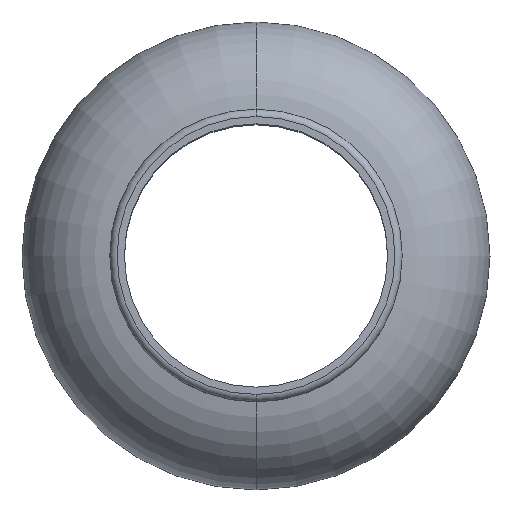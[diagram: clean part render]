
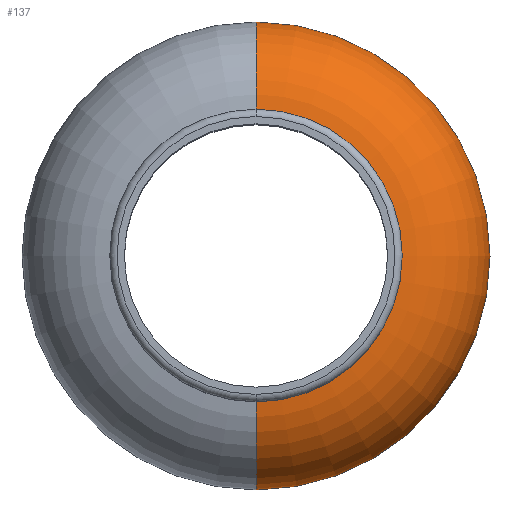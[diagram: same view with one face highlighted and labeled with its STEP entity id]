
A CAD part, top view. The second image highlights one B-rep face of the part: STEP entity #137.
In plain terms, the highlighted toroidal (fillet/blend) face has major radius 9.5 mm and minor radius 6.5 mm.
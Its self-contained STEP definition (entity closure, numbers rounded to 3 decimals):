
#10 = DIRECTION ( 'NONE',  ( 1., 0., 0. ) ) ;
#107 = EDGE_CURVE ( 'NONE', #642, #276, #760, .T. ) ;
#118 = DIRECTION ( 'NONE',  ( 0., 1., 0. ) ) ;
#121 = EDGE_LOOP ( 'NONE', ( #822, #323, #725, #377 ) ) ;
#137 = ADVANCED_FACE ( 'NONE', ( #696 ), #272, .T. ) ;
#166 = CARTESIAN_POINT ( 'NONE',  ( 0., 9.964, -6.483 ) ) ;
#178 = DIRECTION ( 'NONE',  ( 0., 0., 1. ) ) ;
#186 = VERTEX_POINT ( 'NONE', #401 ) ;
#201 = CARTESIAN_POINT ( 'NONE',  ( 0., 0., 0. ) ) ;
#206 = AXIS2_PLACEMENT_3D ( 'NONE', #436, #178, #569 ) ;
#226 = AXIS2_PLACEMENT_3D ( 'NONE', #753, #10, #410 ) ;
#227 = AXIS2_PLACEMENT_3D ( 'NONE', #433, #842, #118 ) ;
#272 = TOROIDAL_SURFACE ( 'NONE', #601, 9.5, 6.5 ) ;
#276 = VERTEX_POINT ( 'NONE', #166 ) ;
#323 = ORIENTED_EDGE ( 'NONE', *, *, #789, .T. ) ;
#329 = EDGE_CURVE ( 'NONE', #694, #276, #552, .T. ) ;
#377 = ORIENTED_EDGE ( 'NONE', *, *, #107, .F. ) ;
#398 = EDGE_CURVE ( 'NONE', #642, #186, #837, .T. ) ;
#401 = CARTESIAN_POINT ( 'NONE',  ( 0., -9.964, 6.483 ) ) ;
#410 = DIRECTION ( 'NONE',  ( 0., 1., 0. ) ) ;
#433 = CARTESIAN_POINT ( 'NONE',  ( 0., 0., 6.483 ) ) ;
#436 = CARTESIAN_POINT ( 'NONE',  ( 0., 0., -6.483 ) ) ;
#460 = DIRECTION ( 'NONE',  ( -1., 0., 0. ) ) ;
#476 = CARTESIAN_POINT ( 'NONE',  ( 0., 9.964, 6.483 ) ) ;
#488 = DIRECTION ( 'NONE',  ( 0., 0., -1. ) ) ;
#552 = CIRCLE ( 'NONE', #206, 9.964 ) ;
#569 = DIRECTION ( 'NONE',  ( 0., -1., 0. ) ) ;
#600 = CARTESIAN_POINT ( 'NONE',  ( 0., 9.5, 0. ) ) ;
#601 = AXIS2_PLACEMENT_3D ( 'NONE', #201, #488, #807 ) ;
#607 = CARTESIAN_POINT ( 'NONE',  ( 0., -9.964, -6.483 ) ) ;
#642 = VERTEX_POINT ( 'NONE', #476 ) ;
#688 = DIRECTION ( 'NONE',  ( 0., 0., 1. ) ) ;
#694 = VERTEX_POINT ( 'NONE', #607 ) ;
#696 = FACE_OUTER_BOUND ( 'NONE', #121, .T. ) ;
#725 = ORIENTED_EDGE ( 'NONE', *, *, #329, .T. ) ;
#753 = CARTESIAN_POINT ( 'NONE',  ( 0., -9.5, 0. ) ) ;
#760 = CIRCLE ( 'NONE', #847, 6.5 ) ;
#789 = EDGE_CURVE ( 'NONE', #186, #694, #816, .T. ) ;
#807 = DIRECTION ( 'NONE',  ( 0., 1., 0. ) ) ;
#816 = CIRCLE ( 'NONE', #226, 6.5 ) ;
#822 = ORIENTED_EDGE ( 'NONE', *, *, #398, .T. ) ;
#837 = CIRCLE ( 'NONE', #227, 9.964 ) ;
#842 = DIRECTION ( 'NONE',  ( 0., 0., -1. ) ) ;
#847 = AXIS2_PLACEMENT_3D ( 'NONE', #600, #460, #688 ) ;
